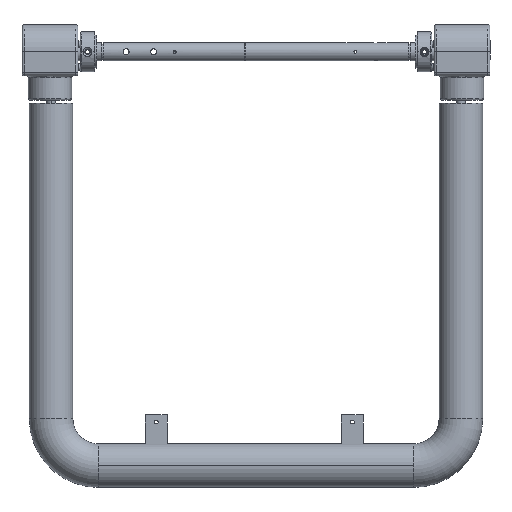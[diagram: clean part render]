
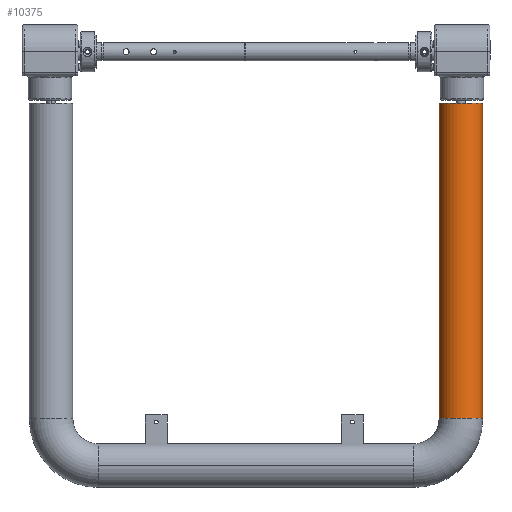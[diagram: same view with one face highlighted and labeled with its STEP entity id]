
A CAD part, front view. The second image highlights one B-rep face of the part: STEP entity #10375.
In plain terms, the highlighted cylindrical face has radius 30 mm (diameter 60 mm), a partial arc.
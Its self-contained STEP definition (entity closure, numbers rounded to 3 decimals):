
#357 = EDGE_CURVE ( 'NONE', #13590, #16417, #13624, .T. ) ;
#402 = CARTESIAN_POINT ( 'NONE',  ( 586.996, 20.856, -547.409 ) ) ;
#630 = FACE_OUTER_BOUND ( 'NONE', #12628, .T. ) ;
#1075 = AXIS2_PLACEMENT_3D ( 'NONE', #18412, #7157, #5466 ) ;
#1284 = ORIENTED_EDGE ( 'NONE', *, *, #15614, .F. ) ;
#3009 = DIRECTION ( 'NONE',  ( 0., 0., 1. ) ) ;
#4061 = DIRECTION ( 'NONE',  ( 0., 0., 1. ) ) ;
#5466 = DIRECTION ( 'NONE',  ( 1., 0., 0. ) ) ;
#5823 = ORIENTED_EDGE ( 'NONE', *, *, #10399, .F. ) ;
#6260 = DIRECTION ( 'NONE',  ( 0., 1., 0. ) ) ;
#6335 = DIRECTION ( 'NONE',  ( 0., 0., 1. ) ) ;
#7157 = DIRECTION ( 'NONE',  ( 0., 0., 1. ) ) ;
#7478 = CYLINDRICAL_SURFACE ( 'NONE', #1075, 30. ) ;
#7916 = CARTESIAN_POINT ( 'NONE',  ( 646.996, 20.856, -547.409 ) ) ;
#8497 = VECTOR ( 'NONE', #6335, 1000. ) ;
#9199 = CARTESIAN_POINT ( 'NONE',  ( 646.996, 20.856, -547.409 ) ) ;
#9907 = ORIENTED_EDGE ( 'NONE', *, *, #14786, .T. ) ;
#9937 = VERTEX_POINT ( 'NONE', #402 ) ;
#10058 = CIRCLE ( 'NONE', #18068, 30. ) ;
#10264 = CIRCLE ( 'NONE', #20251, 30. ) ;
#10281 = DIRECTION ( 'NONE',  ( 0., 1., 0. ) ) ;
#10375 = ADVANCED_FACE ( 'NONE', ( #630 ), #7478, .T. ) ;
#10399 = EDGE_CURVE ( 'NONE', #11913, #16417, #10264, .T. ) ;
#11913 = VERTEX_POINT ( 'NONE', #15176 ) ;
#12628 = EDGE_LOOP ( 'NONE', ( #1284, #9907, #14008, #5823 ) ) ;
#12750 = CARTESIAN_POINT ( 'NONE',  ( 586.996, 20.856, -547.409 ) ) ;
#12778 = LINE ( 'NONE', #12750, #8497 ) ;
#13590 = VERTEX_POINT ( 'NONE', #9199 ) ;
#13624 = LINE ( 'NONE', #7916, #17665 ) ;
#14008 = ORIENTED_EDGE ( 'NONE', *, *, #357, .T. ) ;
#14786 = EDGE_CURVE ( 'NONE', #9937, #13590, #10058, .T. ) ;
#15176 = CARTESIAN_POINT ( 'NONE',  ( 586.996, 20.856, -113.409 ) ) ;
#15232 = CARTESIAN_POINT ( 'NONE',  ( 616.996, 20.856, -113.409 ) ) ;
#15614 = EDGE_CURVE ( 'NONE', #9937, #11913, #12778, .T. ) ;
#15891 = CARTESIAN_POINT ( 'NONE',  ( 616.996, 20.856, -547.409 ) ) ;
#16417 = VERTEX_POINT ( 'NONE', #19485 ) ;
#17665 = VECTOR ( 'NONE', #19122, 1000. ) ;
#18068 = AXIS2_PLACEMENT_3D ( 'NONE', #15891, #3009, #6260 ) ;
#18412 = CARTESIAN_POINT ( 'NONE',  ( 616.996, 20.856, -547.409 ) ) ;
#19122 = DIRECTION ( 'NONE',  ( 0., 0., 1. ) ) ;
#19485 = CARTESIAN_POINT ( 'NONE',  ( 646.996, 20.856, -113.409 ) ) ;
#20251 = AXIS2_PLACEMENT_3D ( 'NONE', #15232, #4061, #10281 ) ;
